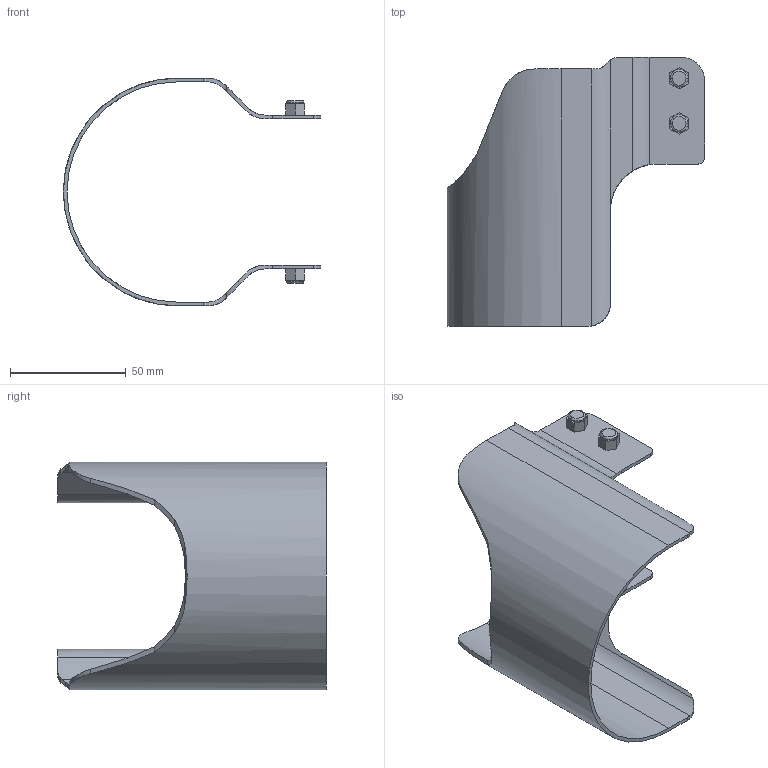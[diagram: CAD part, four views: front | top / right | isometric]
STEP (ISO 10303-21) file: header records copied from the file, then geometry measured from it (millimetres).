
FILE_DESCRIPTION (( 'STEP AP214' ), '1' );
FILE_NAME ('NSAZ150rev1.STEP', '2017-12-04T02:59:43', ( '' ), ( '' ), 'SwSTEP 2.0', 'SolidWorks 2013', '' );
FILE_SCHEMA (( 'AUTOMOTIVE_DESIGN' ));
Length unit declared in the file: millimetre
Products named in the file (1): NSAZ150rev1
Bounding box: 111 x 116 x 98.2 mm (x, y, z)
Volume: 36681.4 mm3; surface area: 46299.6 mm2
Topology: 1 solids, 1 shells, 104 faces, 272 edges, 178 vertices
Faces by surface type: plane 64, cylinder 32, torus 8
Entity records: 3428 total; most frequent: CARTESIAN_POINT 891, ORIENTED_EDGE 544, DIRECTION 498, EDGE_CURVE 272, VERTEX_POINT 178, AXIS2_PLACEMENT_3D 167, VECTOR 164, LINE 164
